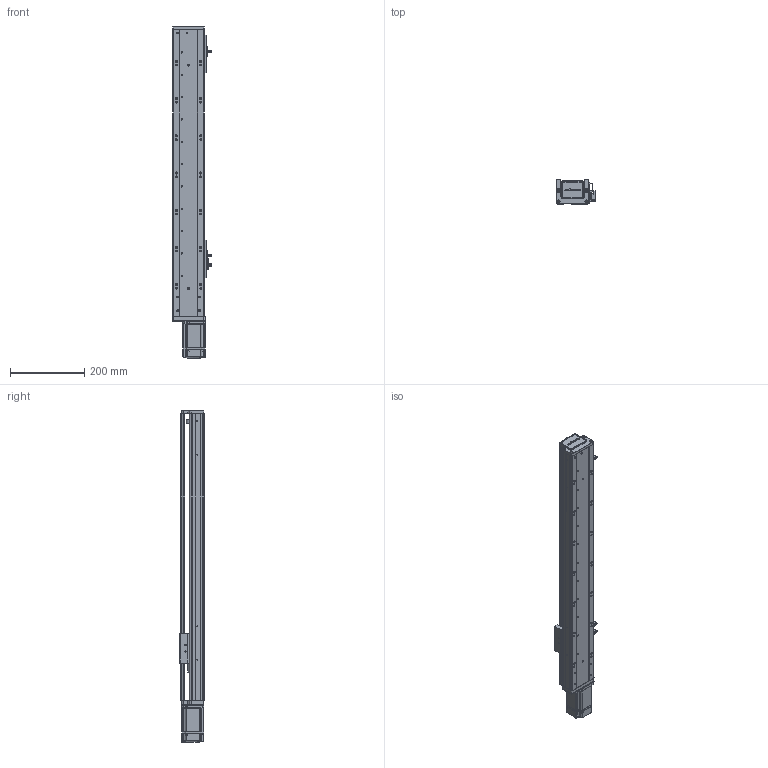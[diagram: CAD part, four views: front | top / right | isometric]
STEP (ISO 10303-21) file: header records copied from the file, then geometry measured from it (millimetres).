
FILE_DESCRIPTION (( 'STEP AP203' ), '1' );
FILE_NAME ('RY80-L1620-300-MK.SLDASM_550.step', '2021-02-20T02:33:21', ( '' ), ( '' ), 'SwSTEP 2.0', 'SolidWorks 2012', '' );
FILE_SCHEMA (( 'CONFIG_CONTROL_DESIGN' ));
Products named in the file (14): RY80前盖板(100W电机 PCD46 M4); RY80綴裔啣; RY80-L1620-300-MK.SLDASM_550; RY80俋离覜茼え; 覜茼ん672; 滅袉蝶18-24; 1; 滅袉蝶18-10; 侂狟200W萇儂; 672嫖萇羲壽假蚾釱; RY80-300-MK倰第菁釱_550; RY80-300-MK倰第奻裔啣_550; RY80臏賑輸; RY80前盖板(200W电机)M4
Assembly tree (16 placements, depth 3):
  RY80-L1620-300-MK.SLDASM_550
    RY80-300-MK倰第菁釱_550
    RY80臏賑輸
    RY80-300-MK倰第奻裔啣_550
    RY80前盖板(200W电机)M4
    侂狟200W萇儂
      1
    滅袉蝶18-10
    672嫖萇羲壽假蚾釱  x2
    覜茼ん672  x3
    RY80俋离覜茼え
    滅袉蝶18-24
    RY80綴裔啣
    RY80前盖板(100W电机 PCD46 M4)
Bounding box: 103.7 x 65 x 892 mm (x, y, z)
Volume: 1569307.4 mm3; surface area: 582531.2 mm2
Topology: 15 solids, 15 shells, 2054 faces, 5672 edges, 3693 vertices
Faces by surface type: plane 1117, cylinder 754, cone 129, bspline 54
Entity records: 65139 total; most frequent: CARTESIAN_POINT 16565, ORIENTED_EDGE 10084, DIRECTION 9385, EDGE_CURVE 5042, VERTEX_POINT 3309, AXIS2_PLACEMENT_3D 3151, LINE 3083, VECTOR 3083
